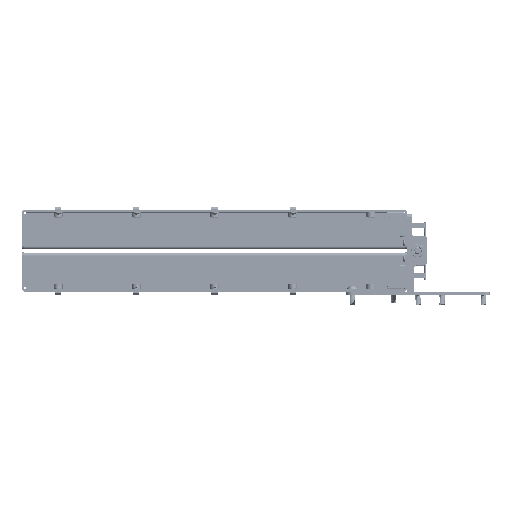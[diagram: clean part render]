
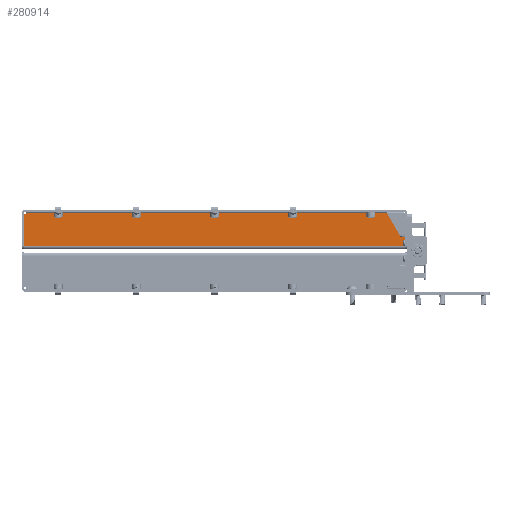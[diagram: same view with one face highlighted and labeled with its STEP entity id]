
A CAD part, top view. The second image highlights one B-rep face of the part: STEP entity #280914.
In plain terms, the highlighted planar face has unit normal (0, 0, 1).
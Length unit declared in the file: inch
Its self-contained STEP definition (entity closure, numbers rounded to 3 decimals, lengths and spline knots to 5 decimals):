
#2358 = ORIENTED_EDGE ( 'NONE', *, *, #165441, .T. ) ;
#3111 = ORIENTED_EDGE ( 'NONE', *, *, #162576, .T. ) ;
#3441 = DIRECTION ( 'NONE',  ( 0., 1., 0. ) ) ;
#4531 = FACE_OUTER_BOUND ( 'NONE', #183560, .T. ) ;
#5304 = ORIENTED_EDGE ( 'NONE', *, *, #301569, .T. ) ;
#9632 = LINE ( 'NONE', #51550, #204810 ) ;
#14320 = CARTESIAN_POINT ( 'NONE',  ( -0.5938, 3.3212, -2.4522 ) ) ;
#15120 = CARTESIAN_POINT ( 'NONE',  ( -0.57, 3.29, -2.4522 ) ) ;
#15616 = VERTEX_POINT ( 'NONE', #84777 ) ;
#18659 = CARTESIAN_POINT ( 'NONE',  ( -0.445, 1.98804, -2.4522 ) ) ;
#18846 = DIRECTION ( 'NONE',  ( 0., -1., 0. ) ) ;
#20091 = AXIS2_PLACEMENT_3D ( 'NONE', #14320, #192408, #39988 ) ;
#21814 = DIRECTION ( 'NONE',  ( 0., -1., 0. ) ) ;
#22960 = CARTESIAN_POINT ( 'NONE',  ( -0.625, 3.3212, -2.4522 ) ) ;
#24580 = VECTOR ( 'NONE', #133335, 39.37008 ) ;
#26693 = CARTESIAN_POINT ( 'NONE',  ( -16.04423, 3.29, -2.4522 ) ) ;
#27076 = DIRECTION ( 'NONE',  ( 0., 1., 0. ) ) ;
#35830 = EDGE_CURVE ( 'NONE', #201487, #128757, #37069, .T. ) ;
#37069 = LINE ( 'NONE', #77471, #284059 ) ;
#39988 = DIRECTION ( 'NONE',  ( 0., -1., 0. ) ) ;
#42512 = VERTEX_POINT ( 'NONE', #18659 ) ;
#45308 = DIRECTION ( 'NONE',  ( -1., 0., 0. ) ) ;
#51550 = CARTESIAN_POINT ( 'NONE',  ( -0.625, 1.86804, -2.4522 ) ) ;
#60610 = LINE ( 'NONE', #325891, #179992 ) ;
#66822 = EDGE_CURVE ( 'NONE', #72849, #309761, #303681, .T. ) ;
#72849 = VERTEX_POINT ( 'NONE', #288107 ) ;
#74479 = CIRCLE ( 'NONE', #121971, 0.0312 ) ;
#77465 = DIRECTION ( 'NONE',  ( 0., 0., 1. ) ) ;
#77471 = CARTESIAN_POINT ( 'NONE',  ( -16.01303, 3.35, -2.4522 ) ) ;
#79033 = DIRECTION ( 'NONE',  ( 1., 0., 0. ) ) ;
#84777 = CARTESIAN_POINT ( 'NONE',  ( -16.06803, 3.29, -2.4522 ) ) ;
#89322 = CARTESIAN_POINT ( 'NONE',  ( -16.04423, 3.3212, -2.4522 ) ) ;
#90199 = LINE ( 'NONE', #155902, #141880 ) ;
#92211 = LINE ( 'NONE', #260333, #24580 ) ;
#102492 = CARTESIAN_POINT ( 'NONE',  ( -16.01303, 3.35, -2.4522 ) ) ;
#105717 = CARTESIAN_POINT ( 'NONE',  ( -16.19303, 1.86804, -2.4522 ) ) ;
#114966 = DIRECTION ( 'NONE',  ( 0., -1., 0. ) ) ;
#121971 = AXIS2_PLACEMENT_3D ( 'NONE', #89322, #267547, #114966 ) ;
#124587 = ORIENTED_EDGE ( 'NONE', *, *, #35830, .T. ) ;
#128357 = LINE ( 'NONE', #257210, #263835 ) ;
#128757 = VERTEX_POINT ( 'NONE', #102492 ) ;
#129935 = VERTEX_POINT ( 'NONE', #22960 ) ;
#131325 = PLANE ( 'NONE',  #242552 ) ;
#133335 = DIRECTION ( 'NONE',  ( 1., 0., 0. ) ) ;
#135790 = EDGE_CURVE ( 'NONE', #306795, #285312, #74479, .T. ) ;
#138319 = EDGE_CURVE ( 'NONE', #266285, #129935, #284782, .T. ) ;
#141880 = VECTOR ( 'NONE', #3441, 39.37008 ) ;
#148065 = DIRECTION ( 'NONE',  ( 0., -1., 0. ) ) ;
#153471 = EDGE_CURVE ( 'NONE', #309761, #42512, #92211, .T. ) ;
#154620 = DIRECTION ( 'NONE',  ( -1., 0., 0. ) ) ;
#155902 = CARTESIAN_POINT ( 'NONE',  ( -0.445, 1.86804, -2.4522 ) ) ;
#156861 = DIRECTION ( 'NONE',  ( 0., -1., 0. ) ) ;
#160780 = ORIENTED_EDGE ( 'NONE', *, *, #135790, .T. ) ;
#162576 = EDGE_CURVE ( 'NONE', #252113, #306028, #216209, .T. ) ;
#165441 = EDGE_CURVE ( 'NONE', #306028, #266285, #60610, .T. ) ;
#170030 = ORIENTED_EDGE ( 'NONE', *, *, #153471, .T. ) ;
#171260 = CARTESIAN_POINT ( 'NONE',  ( -16.01303, 1.86804, -2.4522 ) ) ;
#171706 = LINE ( 'NONE', #171260, #195671 ) ;
#174225 = DIRECTION ( 'NONE',  ( 0., 0., 1. ) ) ;
#174904 = EDGE_CURVE ( 'NONE', #129935, #201487, #9632, .T. ) ;
#177614 = CARTESIAN_POINT ( 'NONE',  ( -0.625, 3.35, -2.4522 ) ) ;
#179992 = VECTOR ( 'NONE', #45308, 39.37008 ) ;
#183560 = EDGE_LOOP ( 'NONE', ( #5304, #3111, #2358, #312671, #194664, #124587, #291855, #160780, #282553, #243719, #238698, #170030 ) ) ;
#186832 = CARTESIAN_POINT ( 'NONE',  ( -16.01303, 3.3212, -2.4522 ) ) ;
#192408 = DIRECTION ( 'NONE',  ( 0., 0., -1. ) ) ;
#194664 = ORIENTED_EDGE ( 'NONE', *, *, #174904, .T. ) ;
#195671 = VECTOR ( 'NONE', #18846, 39.37008 ) ;
#201487 = VERTEX_POINT ( 'NONE', #177614 ) ;
#201648 = CARTESIAN_POINT ( 'NONE',  ( -16.19303, 1.98804, -2.4522 ) ) ;
#204810 = VECTOR ( 'NONE', #27076, 39.37008 ) ;
#216209 = CIRCLE ( 'NONE', #295030, 0.125 ) ;
#219819 = AXIS2_PLACEMENT_3D ( 'NONE', #326908, #174225, #21814 ) ;
#230046 = CARTESIAN_POINT ( 'NONE',  ( -0.57, 3.165, -2.4522 ) ) ;
#235894 = VECTOR ( 'NONE', #148065, 39.37008 ) ;
#238698 = ORIENTED_EDGE ( 'NONE', *, *, #66822, .T. ) ;
#242552 = AXIS2_PLACEMENT_3D ( 'NONE', #105717, #309462, #156861 ) ;
#243719 = ORIENTED_EDGE ( 'NONE', *, *, #251141, .T. ) ;
#251141 = EDGE_CURVE ( 'NONE', #15616, #72849, #256068, .T. ) ;
#252113 = VERTEX_POINT ( 'NONE', #319643 ) ;
#255670 = DIRECTION ( 'NONE',  ( 0., -1., 0. ) ) ;
#256068 = CIRCLE ( 'NONE', #219819, 0.125 ) ;
#257210 = CARTESIAN_POINT ( 'NONE',  ( -16.19303, 3.29, -2.4522 ) ) ;
#260333 = CARTESIAN_POINT ( 'NONE',  ( -0.445, 1.98804, -2.4522 ) ) ;
#263835 = VECTOR ( 'NONE', #79033, 39.37008 ) ;
#266285 = VERTEX_POINT ( 'NONE', #320935 ) ;
#267547 = DIRECTION ( 'NONE',  ( 0., 0., -1. ) ) ;
#270538 = EDGE_CURVE ( 'NONE', #15616, #285312, #128357, .T. ) ;
#280914 = ADVANCED_FACE ( 'NONE', ( #4531 ), #131325, .F. ) ;
#282553 = ORIENTED_EDGE ( 'NONE', *, *, #270538, .F. ) ;
#284059 = VECTOR ( 'NONE', #154620, 39.37008 ) ;
#284782 = CIRCLE ( 'NONE', #20091, 0.0312 ) ;
#285312 = VERTEX_POINT ( 'NONE', #26693 ) ;
#288107 = CARTESIAN_POINT ( 'NONE',  ( -16.19303, 3.165, -2.4522 ) ) ;
#291855 = ORIENTED_EDGE ( 'NONE', *, *, #324707, .T. ) ;
#295030 = AXIS2_PLACEMENT_3D ( 'NONE', #230046, #77465, #255670 ) ;
#301569 = EDGE_CURVE ( 'NONE', #42512, #252113, #90199, .T. ) ;
#303681 = LINE ( 'NONE', #326386, #235894 ) ;
#306028 = VERTEX_POINT ( 'NONE', #15120 ) ;
#306795 = VERTEX_POINT ( 'NONE', #186832 ) ;
#309462 = DIRECTION ( 'NONE',  ( 0., 0., -1. ) ) ;
#309761 = VERTEX_POINT ( 'NONE', #201648 ) ;
#312671 = ORIENTED_EDGE ( 'NONE', *, *, #138319, .T. ) ;
#319643 = CARTESIAN_POINT ( 'NONE',  ( -0.445, 3.165, -2.4522 ) ) ;
#320935 = CARTESIAN_POINT ( 'NONE',  ( -0.5938, 3.29, -2.4522 ) ) ;
#324707 = EDGE_CURVE ( 'NONE', #128757, #306795, #171706, .T. ) ;
#325891 = CARTESIAN_POINT ( 'NONE',  ( -16.19303, 3.29, -2.4522 ) ) ;
#326386 = CARTESIAN_POINT ( 'NONE',  ( -16.19303, 1.86804, -2.4522 ) ) ;
#326908 = CARTESIAN_POINT ( 'NONE',  ( -16.06803, 3.165, -2.4522 ) ) ;
